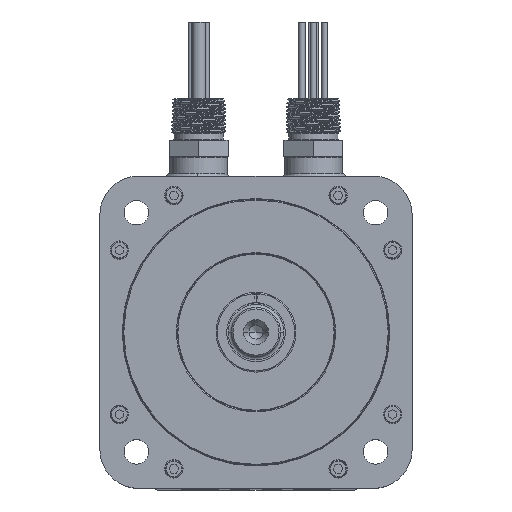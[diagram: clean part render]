
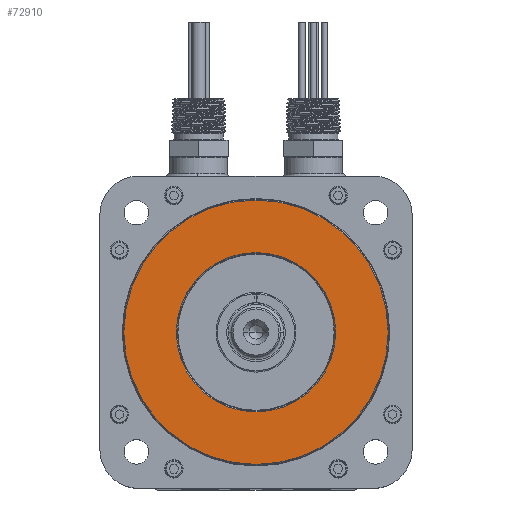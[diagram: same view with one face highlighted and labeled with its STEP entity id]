
A CAD part, top view. The second image highlights one B-rep face of the part: STEP entity #72910.
In plain terms, the highlighted planar face has unit normal (0, 0, 1).
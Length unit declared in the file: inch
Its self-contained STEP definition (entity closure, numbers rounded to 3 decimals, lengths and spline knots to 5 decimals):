
#411 = CARTESIAN_POINT ( 'NONE',  ( -2.53906, 0., 0. ) ) ;
#951 = DIRECTION ( 'NONE',  ( 0., 0., 1. ) ) ;
#3762 = EDGE_CURVE ( 'NONE', #37714, #66244, #16105, .T. ) ;
#5352 = DIRECTION ( 'NONE',  ( 1., 0., 0. ) ) ;
#9941 = ORIENTED_EDGE ( 'NONE', *, *, #3762, .F. ) ;
#10399 = CIRCLE ( 'NONE', #40223, 1.5305 ) ;
#14874 = FACE_BOUND ( 'NONE', #40642, .T. ) ;
#15151 = DIRECTION ( 'NONE',  ( 0., 0., 1. ) ) ;
#16105 = CIRCLE ( 'NONE', #68698, 1.5305 ) ;
#16943 = DIRECTION ( 'NONE',  ( 0., 0., 1. ) ) ;
#17330 = VERTEX_POINT ( 'NONE', #70061 ) ;
#17516 = CIRCLE ( 'NONE', #50309, 2.53906 ) ;
#20501 = PLANE ( 'NONE',  #61552 ) ;
#24176 = CARTESIAN_POINT ( 'NONE',  ( 0., 0., 0. ) ) ;
#27487 = CARTESIAN_POINT ( 'NONE',  ( -1.5305, 0., 0. ) ) ;
#28806 = DIRECTION ( 'NONE',  ( 1., 0., 0. ) ) ;
#30134 = DIRECTION ( 'NONE',  ( 1., 0., 0. ) ) ;
#33614 = EDGE_CURVE ( 'NONE', #53689, #17330, #17516, .T. ) ;
#36210 = CARTESIAN_POINT ( 'NONE',  ( 0., 0., 0. ) ) ;
#37196 = ORIENTED_EDGE ( 'NONE', *, *, #33614, .T. ) ;
#37714 = VERTEX_POINT ( 'NONE', #58799 ) ;
#40223 = AXIS2_PLACEMENT_3D ( 'NONE', #24176, #65389, #30134 ) ;
#40246 = EDGE_CURVE ( 'NONE', #66244, #37714, #10399, .T. ) ;
#40642 = EDGE_LOOP ( 'NONE', ( #9941, #42096 ) ) ;
#40653 = DIRECTION ( 'NONE',  ( 0., 0., 1. ) ) ;
#42096 = ORIENTED_EDGE ( 'NONE', *, *, #40246, .F. ) ;
#42160 = DIRECTION ( 'NONE',  ( 1., 0., 0. ) ) ;
#50248 = EDGE_CURVE ( 'NONE', #17330, #53689, #67972, .T. ) ;
#50309 = AXIS2_PLACEMENT_3D ( 'NONE', #36210, #951, #42160 ) ;
#50470 = CARTESIAN_POINT ( 'NONE',  ( 0., 0., 0. ) ) ;
#52134 = EDGE_LOOP ( 'NONE', ( #37196, #68171 ) ) ;
#53689 = VERTEX_POINT ( 'NONE', #411 ) ;
#56335 = DIRECTION ( 'NONE',  ( 1., 0., 0. ) ) ;
#57655 = AXIS2_PLACEMENT_3D ( 'NONE', #50470, #15151, #56335 ) ;
#58799 = CARTESIAN_POINT ( 'NONE',  ( 1.5305, 0., 0. ) ) ;
#59990 = FACE_OUTER_BOUND ( 'NONE', #52134, .T. ) ;
#61552 = AXIS2_PLACEMENT_3D ( 'NONE', #75648, #16943, #28806 ) ;
#65389 = DIRECTION ( 'NONE',  ( 0., 0., 1. ) ) ;
#66244 = VERTEX_POINT ( 'NONE', #27487 ) ;
#67972 = CIRCLE ( 'NONE', #57655, 2.53906 ) ;
#68171 = ORIENTED_EDGE ( 'NONE', *, *, #50248, .T. ) ;
#68698 = AXIS2_PLACEMENT_3D ( 'NONE', #75847, #40653, #5352 ) ;
#70061 = CARTESIAN_POINT ( 'NONE',  ( 2.53906, 0., 0. ) ) ;
#72910 = ADVANCED_FACE ( 'NONE', ( #59990, #14874 ), #20501, .T. ) ;
#75648 = CARTESIAN_POINT ( 'NONE',  ( 0., 1.5305, 0. ) ) ;
#75847 = CARTESIAN_POINT ( 'NONE',  ( 0., 0., 0. ) ) ;
